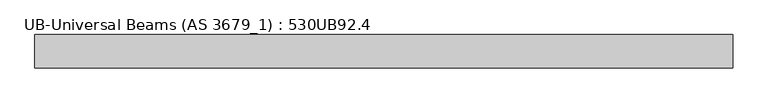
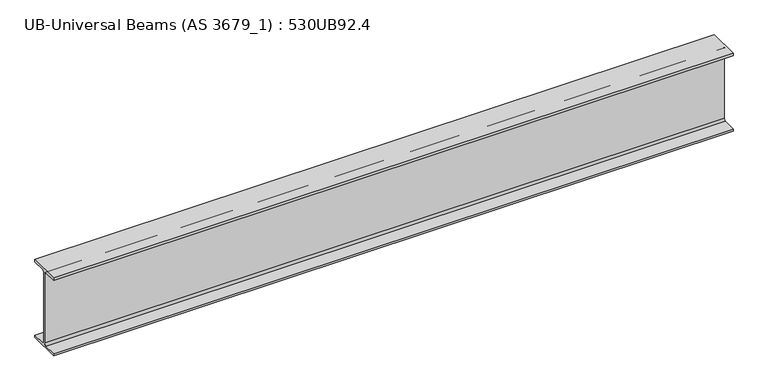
"""IFC4 building model written with IfcOpenShell, lengths in millimetres: beam geometry, UB-Universal Beams (AS 3679_1) : 530UB92.4."""

from ifc_helpers import new_model, si_unit, point, frame, frame_2d, origin, place, context, project, spatial, polyline, circle_curve, trimmed, segment, composite_curve, outline, extrude, source, transform, mapped, element, save


def ub_universal_beams_as_3679_1_530ub92_4_55a1222a(model_context):
    return source(origin(), model_context, "Body", "SweptSolid", [
        extrude(outline(composite_curve([segment(polyline([(104.5, -250.9), (104.5, -266.5), (-104.5, -266.5), (-104.5, -250.9), (-19.1, -250.9)]), True, "CONTINUOUS"), segment(trimmed(circle_curve(frame_2d((-19.1, -236.9)), 14.0), [point((-19.1, -250.9))], [point((-5.1, -236.9))], True, "CARTESIAN"), True, "CONTINUOUS"), segment(polyline([(-5.1, -236.9), (-5.1, 236.9)]), True, "CONTINUOUS"), segment(trimmed(circle_curve(frame_2d((-19.1, 236.9)), 14.0), [point((-5.1, 236.9))], [point((-19.1, 250.9))], True, "CARTESIAN"), True, "CONTINUOUS"), segment(polyline([(-19.1, 250.9), (-104.5, 250.9), (-104.5, 266.5), (104.5, 266.5), (104.5, 250.9), (19.1, 250.9)]), True, "CONTINUOUS"), segment(trimmed(circle_curve(frame_2d((19.1, 236.9)), 14.0), [point((19.1, 250.9))], [point((5.1, 236.9))], True, "CARTESIAN"), True, "CONTINUOUS"), segment(polyline([(5.1, 236.9), (5.1, -236.9)]), True, "CONTINUOUS"), segment(trimmed(circle_curve(frame_2d((19.1, -236.9)), 14.0), [point((5.1, -236.9))], [point((19.1, -250.9))], True, "CARTESIAN"), True, "CONTINUOUS"), segment(polyline([(19.1, -250.9), (104.5, -250.9)]), True, "CONTINUOUS")], self_intersect=False)), frame((-2098.6, 0.0, 0.0), z_axis=(1.0, 0.0, 0.0), x_axis=(0.0, 1.0, 0.0)), (0.0, 0.0, 1.0), 4398.3),
    ])


if __name__ == "__main__":
    model = new_model("IFC4")
    model_context = context("Model", 3, world=origin())
    ifc_project = project(units=[si_unit("LENGTHUNIT", "METRE", prefix="MILLI")], contexts=[model_context])
    site = spatial("IfcSite", under=ifc_project)
    building = spatial("IfcBuilding", under=site)
    placement = place(None, origin())
    ub_universal_beams_as_3679_1_530ub92_4_shape = ub_universal_beams_as_3679_1_530ub92_4_55a1222a(model_context)
    element("IfcBeam", 1, ObjectType="UB-Universal Beams (AS 3679_1) : 530UB92.4", at=placement, inside=building, context=model_context, shape_type="MappedRepresentation", body=[
        mapped(ub_universal_beams_as_3679_1_530ub92_4_shape, transform((0.0, 0.0, 0.0), x_axis=(1.0, 0.0, 0.0), y_axis=(0.0, 1.0, 0.0), z_axis=(0.0, 0.0, 1.0))),
    ])
    save(model, "model.ifc")
